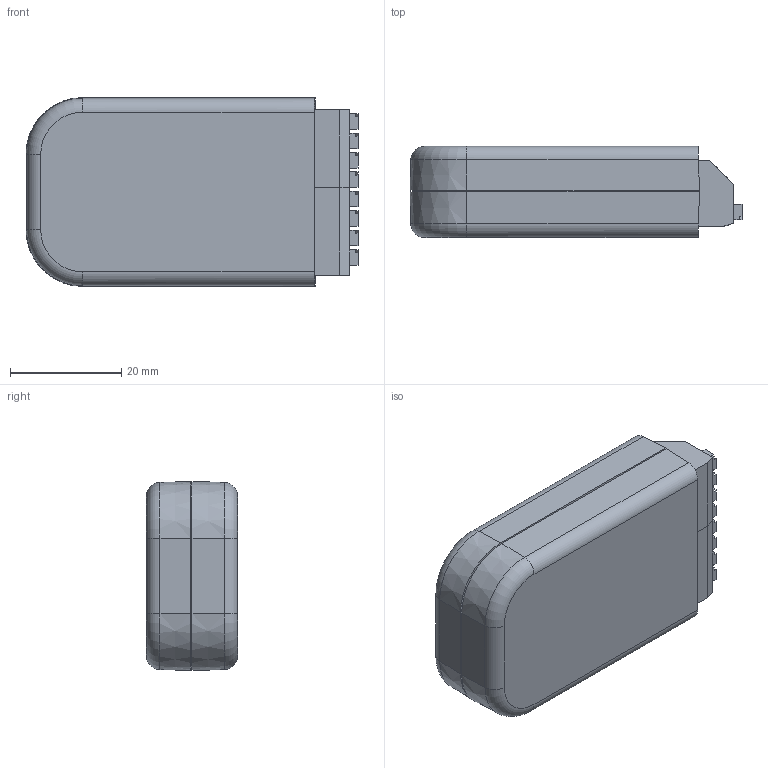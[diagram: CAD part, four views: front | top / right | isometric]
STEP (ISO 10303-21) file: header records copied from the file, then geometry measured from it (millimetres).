
FILE_DESCRIPTION (( 'STEP AP214' ), '1' );
FILE_NAME ('PST 上下蓋組合圖-1061016.STEP', '2018-12-12T02:12:54', ( '' ), ( '' ), 'SwSTEP 2.0', 'SolidWorks 2017', '' );
FILE_SCHEMA (( 'AUTOMOTIVE_DESIGN' ));
Length unit declared in the file: millimetre
Products named in the file (5): PST 上蓋(M-B393-01-M)-1050601; PST PCBªO-1040916; DINKLE 端子台示意圖(8PIN)-1040915; PST 下蓋(M-B394-01-M)-1050601; PST 上下蓋組合圖-1061016
Assembly tree (4 placements, depth 2):
  PST 上下蓋組合圖-1061016
    PST 下蓋(M-B394-01-M)-1050601
    PST 上蓋(M-B393-01-M)-1050601
    DINKLE 端子台示意圖(8PIN)-1040915
    PST PCBªO-1040916
Bounding box: 59.81 x 16.4 x 34.03 mm (x, y, z)
Volume: 14282.6 mm3; surface area: 16531.2 mm2
Topology: 13 solids, 13 shells, 563 faces, 1512 edges, 956 vertices
Faces by surface type: plane 387, cylinder 66, cone 42, torus 24, bspline 24, sphere 20
Entity records: 17963 total; most frequent: CARTESIAN_POINT 3830, ORIENTED_EDGE 2968, DIRECTION 2694, EDGE_CURVE 1484, VECTOR 1150, LINE 1150, VERTEX_POINT 956, AXIS2_PLACEMENT_3D 772
